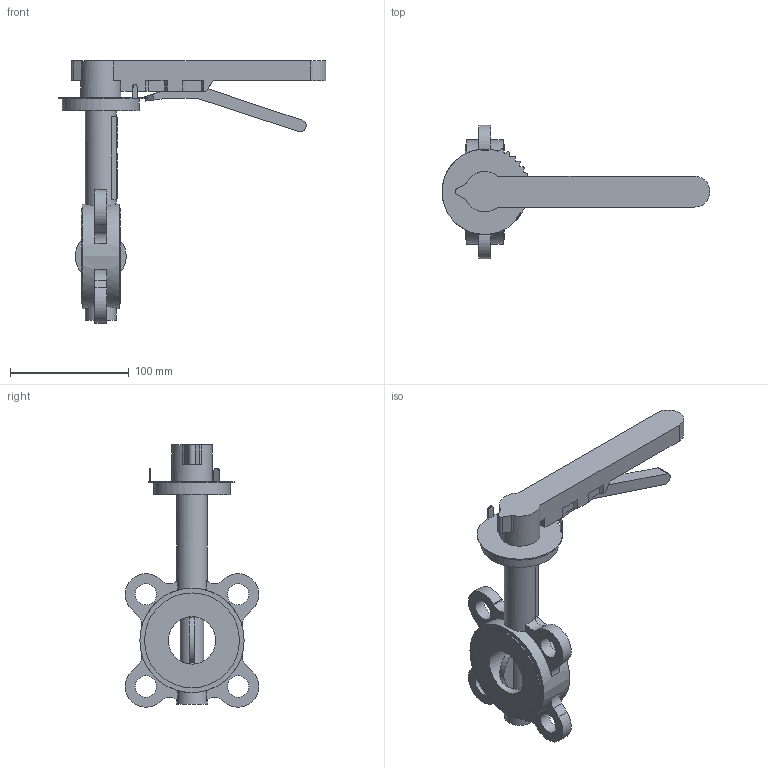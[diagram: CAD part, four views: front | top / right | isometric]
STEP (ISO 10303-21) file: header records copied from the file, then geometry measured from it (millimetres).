
FILE_DESCRIPTION(('STEP AP203'), '1');
FILE_NAME('青蜮铕 015WDN40', '', ('UNSPECIFIED'), ('UNSPECIFIED'), 'ASCON STEP Converter 1.6', 'ASCON Math Kernel', '');
FILE_SCHEMA(('CONFIG_CONTROL_DESIGN'));
Length unit declared in the file: millimetre
Bounding box: 225.97 x 112.65 x 221.32 mm (x, y, z)
Volume: 138340.1 mm3; surface area: 87628 mm2
Topology: 1 solids, 2 shells, 694 faces, 2042 edges, 1316 vertices
Faces by surface type: cylinder 460, plane 234
Full cylindrical faces by diameter (mm): 8 x4, 12.6 x1, 18 x4, 20 x1, 26 x2, 34 x1, 35 x1, 40 x1, 65 x1, 80 x2, 88 x1
Entity records: 30191 total; most frequent: CARTESIAN_POINT 5287, DIRECTION 4357, ORIENTED_EDGE 3985, EDGE_CURVE 2024, AXIS2_PLACEMENT_3D 1667, VERTEX_POINT 1316, LINE 1023, VECTOR 1023
